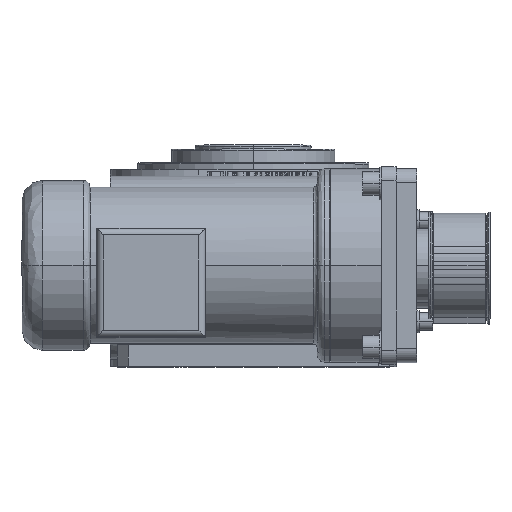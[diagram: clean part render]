
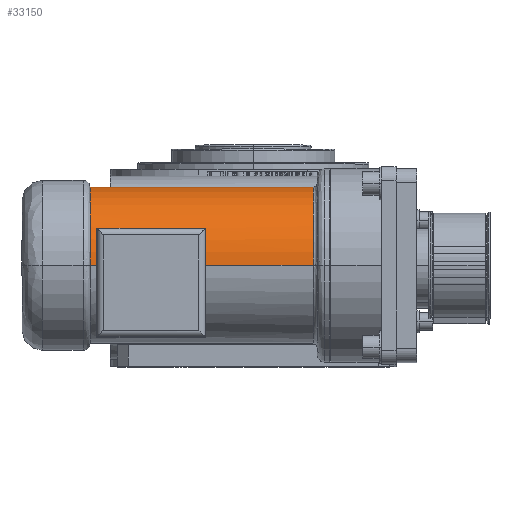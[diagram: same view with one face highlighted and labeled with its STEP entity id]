
A CAD part, top view. The second image highlights one B-rep face of the part: STEP entity #33150.
In plain terms, the highlighted cylindrical face has radius 57.5 mm (diameter 115 mm), a partial arc.
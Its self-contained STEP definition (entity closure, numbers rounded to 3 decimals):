
#196 = CARTESIAN_POINT ( 'NONE',  ( -115., -71., 356.7 ) ) ;
#1417 = CARTESIAN_POINT ( 'NONE',  ( 47., -71., 299.2 ) ) ;
#2169 = ORIENTED_EDGE ( 'NONE', *, *, #54804, .F. ) ;
#3537 = CARTESIAN_POINT ( 'NONE',  ( 47., -71., 356.7 ) ) ;
#8961 = ORIENTED_EDGE ( 'NONE', *, *, #77563, .T. ) ;
#11905 = AXIS2_PLACEMENT_3D ( 'NONE', #56098, #13478, #63242 ) ;
#13478 = DIRECTION ( 'NONE',  ( 1., 0., 0. ) ) ;
#13951 = DIRECTION ( 'NONE',  ( 1., 0., 0. ) ) ;
#14032 = VECTOR ( 'NONE', #73959, 1000. ) ;
#15262 = AXIS2_PLACEMENT_3D ( 'NONE', #56592, #13951, #63728 ) ;
#15673 = DIRECTION ( 'NONE',  ( 0., 0., 1. ) ) ;
#16268 = EDGE_CURVE ( 'NONE', #31828, #79515, #32115, .T. ) ;
#16315 = VERTEX_POINT ( 'NONE', #55107 ) ;
#18217 = DIRECTION ( 'NONE',  ( -1., 0., 0. ) ) ;
#21090 = CARTESIAN_POINT ( 'NONE',  ( 44., -71., 299.2 ) ) ;
#23946 = VECTOR ( 'NONE', #68188, 1000. ) ;
#26692 = EDGE_CURVE ( 'NONE', #61990, #62399, #82317, .T. ) ;
#28216 = DIRECTION ( 'NONE',  ( 0., 0., 1. ) ) ;
#29658 = CYLINDRICAL_SURFACE ( 'NONE', #58252, 57.5 ) ;
#31828 = VERTEX_POINT ( 'NONE', #196 ) ;
#32115 = LINE ( 'NONE', #3537, #51025 ) ;
#33041 = VERTEX_POINT ( 'NONE', #63002 ) ;
#33150 = ADVANCED_FACE ( 'NONE', ( #50786 ), #29658, .T. ) ;
#33987 = VERTEX_POINT ( 'NONE', #34663 ) ;
#34663 = CARTESIAN_POINT ( 'NONE',  ( 44., -71., 356.7 ) ) ;
#35387 = CIRCLE ( 'NONE', #15262, 57.5 ) ;
#37253 = VERTEX_POINT ( 'NONE', #67133 ) ;
#37831 = CARTESIAN_POINT ( 'NONE',  ( -120., -71., 356.7 ) ) ;
#38982 = DIRECTION ( 'NONE',  ( -1., 0., 0. ) ) ;
#42224 = CARTESIAN_POINT ( 'NONE',  ( 47., -71., 241.7 ) ) ;
#42864 = LINE ( 'NONE', #53814, #23946 ) ;
#42940 = CARTESIAN_POINT ( 'NONE',  ( -35., -43.8, 349.86 ) ) ;
#43559 = CIRCLE ( 'NONE', #80515, 57.5 ) ;
#44878 = CIRCLE ( 'NONE', #85172, 57.5 ) ;
#48674 = LINE ( 'NONE', #42224, #86712 ) ;
#50786 = FACE_OUTER_BOUND ( 'NONE', #87738, .T. ) ;
#51025 = VECTOR ( 'NONE', #38982, 1000. ) ;
#53814 = CARTESIAN_POINT ( 'NONE',  ( 47., -43.8, 349.86 ) ) ;
#54804 = EDGE_CURVE ( 'NONE', #33987, #62399, #70853, .T. ) ;
#55107 = CARTESIAN_POINT ( 'NONE',  ( 44., -71., 241.7 ) ) ;
#55275 = ORIENTED_EDGE ( 'NONE', *, *, #16268, .F. ) ;
#55361 = EDGE_CURVE ( 'NONE', #37253, #61990, #42864, .T. ) ;
#56098 = CARTESIAN_POINT ( 'NONE',  ( -35., -71., 299.2 ) ) ;
#56592 = CARTESIAN_POINT ( 'NONE',  ( -120., -71., 299.2 ) ) ;
#58252 = AXIS2_PLACEMENT_3D ( 'NONE', #1417, #65494, #15673 ) ;
#60912 = CARTESIAN_POINT ( 'NONE',  ( -115., -71., 299.2 ) ) ;
#61990 = VERTEX_POINT ( 'NONE', #42940 ) ;
#62399 = VERTEX_POINT ( 'NONE', #75345 ) ;
#62467 = EDGE_CURVE ( 'NONE', #16315, #33041, #48674, .T. ) ;
#63002 = CARTESIAN_POINT ( 'NONE',  ( -120., -71., 241.7 ) ) ;
#63062 = DIRECTION ( 'NONE',  ( -1., 0., 0. ) ) ;
#63242 = DIRECTION ( 'NONE',  ( 0., 0., 1. ) ) ;
#63728 = DIRECTION ( 'NONE',  ( 0., 0., 1. ) ) ;
#65494 = DIRECTION ( 'NONE',  ( -1., 0., 0. ) ) ;
#66753 = CARTESIAN_POINT ( 'NONE',  ( 47., -71., 356.7 ) ) ;
#67133 = CARTESIAN_POINT ( 'NONE',  ( -115., -43.8, 349.86 ) ) ;
#67196 = ORIENTED_EDGE ( 'NONE', *, *, #26692, .T. ) ;
#68060 = DIRECTION ( 'NONE',  ( 0., 0., 1. ) ) ;
#68188 = DIRECTION ( 'NONE',  ( 1., 0., 0. ) ) ;
#69357 = EDGE_CURVE ( 'NONE', #33041, #79515, #35387, .T. ) ;
#70853 = LINE ( 'NONE', #66753, #14032 ) ;
#70908 = DIRECTION ( 'NONE',  ( -1., 0., 0. ) ) ;
#73959 = DIRECTION ( 'NONE',  ( -1., 0., 0. ) ) ;
#75345 = CARTESIAN_POINT ( 'NONE',  ( -35., -71., 356.7 ) ) ;
#77563 = EDGE_CURVE ( 'NONE', #31828, #37253, #44878, .T. ) ;
#78655 = EDGE_CURVE ( 'NONE', #33987, #16315, #43559, .T. ) ;
#79515 = VERTEX_POINT ( 'NONE', #37831 ) ;
#80515 = AXIS2_PLACEMENT_3D ( 'NONE', #21090, #70908, #28216 ) ;
#80957 = ORIENTED_EDGE ( 'NONE', *, *, #55361, .T. ) ;
#82317 = CIRCLE ( 'NONE', #11905, 57.5 ) ;
#83636 = ORIENTED_EDGE ( 'NONE', *, *, #78655, .T. ) ;
#85172 = AXIS2_PLACEMENT_3D ( 'NONE', #60912, #18217, #68060 ) ;
#86712 = VECTOR ( 'NONE', #63062, 1000. ) ;
#87738 = EDGE_LOOP ( 'NONE', ( #83636, #91251, #92166, #55275, #8961, #80957, #67196, #2169 ) ) ;
#91251 = ORIENTED_EDGE ( 'NONE', *, *, #62467, .T. ) ;
#92166 = ORIENTED_EDGE ( 'NONE', *, *, #69357, .T. ) ;
